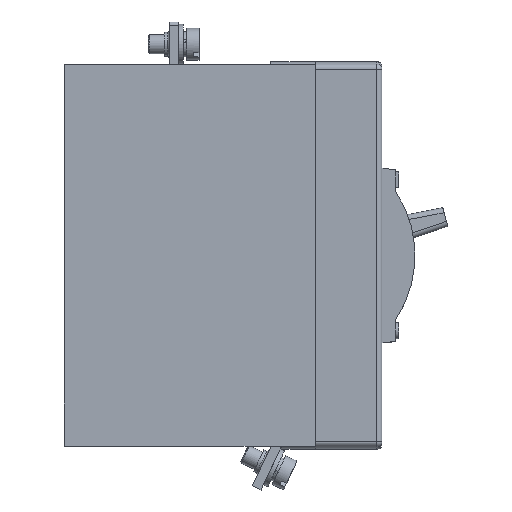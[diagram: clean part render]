
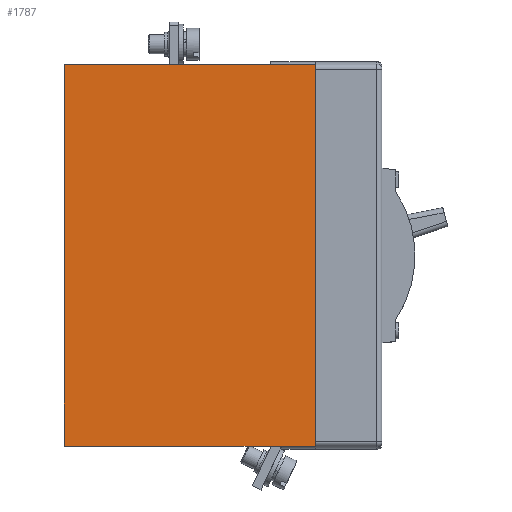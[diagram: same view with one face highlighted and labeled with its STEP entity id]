
A CAD part, top view. The second image highlights one B-rep face of the part: STEP entity #1787.
In plain terms, the highlighted planar face has unit normal (0, 0, 1).
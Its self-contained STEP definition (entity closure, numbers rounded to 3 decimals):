
#429 = CARTESIAN_POINT ( 'NONE',  ( 6.876, 86.502, 31.5 ) ) ;
#514 = EDGE_CURVE ( 'NONE', #1474, #3707, #8207, .T. ) ;
#564 = ORIENTED_EDGE ( 'NONE', *, *, #4550, .T. ) ;
#602 = DIRECTION ( 'NONE',  ( -1., 0., 0. ) ) ;
#704 = VECTOR ( 'NONE', #3815, 1000. ) ;
#791 = VERTEX_POINT ( 'NONE', #5936 ) ;
#1474 = VERTEX_POINT ( 'NONE', #4261 ) ;
#1787 = ADVANCED_FACE ( 'NONE', ( #6874 ), #2868, .T. ) ;
#2063 = VECTOR ( 'NONE', #4839, 1000. ) ;
#2199 = AXIS2_PLACEMENT_3D ( 'NONE', #2248, #6661, #2204 ) ;
#2204 = DIRECTION ( 'NONE',  ( 1., 0., 0. ) ) ;
#2248 = CARTESIAN_POINT ( 'NONE',  ( -72.124, 86.502, 31.5 ) ) ;
#2264 = CARTESIAN_POINT ( 'NONE',  ( -72.124, -33.498, 31.5 ) ) ;
#2676 = VECTOR ( 'NONE', #4414, 1000. ) ;
#2868 = PLANE ( 'NONE',  #2199 ) ;
#2880 = ORIENTED_EDGE ( 'NONE', *, *, #7949, .T. ) ;
#2952 = CARTESIAN_POINT ( 'NONE',  ( -72.124, -33.498, 31.5 ) ) ;
#3090 = CARTESIAN_POINT ( 'NONE',  ( -72.124, 86.502, 31.5 ) ) ;
#3593 = VERTEX_POINT ( 'NONE', #2264 ) ;
#3707 = VERTEX_POINT ( 'NONE', #429 ) ;
#3815 = DIRECTION ( 'NONE',  ( 0., 1., 0. ) ) ;
#3859 = VECTOR ( 'NONE', #602, 1000. ) ;
#4261 = CARTESIAN_POINT ( 'NONE',  ( 6.876, -33.498, 31.5 ) ) ;
#4414 = DIRECTION ( 'NONE',  ( 0., -1., 0. ) ) ;
#4475 = CARTESIAN_POINT ( 'NONE',  ( -72.124, 86.502, 31.5 ) ) ;
#4550 = EDGE_CURVE ( 'NONE', #791, #3593, #7295, .T. ) ;
#4839 = DIRECTION ( 'NONE',  ( 1., 0., 0. ) ) ;
#4998 = EDGE_LOOP ( 'NONE', ( #564, #6361, #7814, #2880 ) ) ;
#5936 = CARTESIAN_POINT ( 'NONE',  ( -72.124, 86.502, 31.5 ) ) ;
#6361 = ORIENTED_EDGE ( 'NONE', *, *, #7269, .T. ) ;
#6661 = DIRECTION ( 'NONE',  ( 0., 0., 1. ) ) ;
#6874 = FACE_OUTER_BOUND ( 'NONE', #4998, .T. ) ;
#7269 = EDGE_CURVE ( 'NONE', #3593, #1474, #8293, .T. ) ;
#7295 = LINE ( 'NONE', #3090, #2676 ) ;
#7583 = LINE ( 'NONE', #4475, #3859 ) ;
#7814 = ORIENTED_EDGE ( 'NONE', *, *, #514, .T. ) ;
#7949 = EDGE_CURVE ( 'NONE', #3707, #791, #7583, .T. ) ;
#8207 = LINE ( 'NONE', #8271, #704 ) ;
#8271 = CARTESIAN_POINT ( 'NONE',  ( 6.876, 86.502, 31.5 ) ) ;
#8293 = LINE ( 'NONE', #2952, #2063 ) ;
